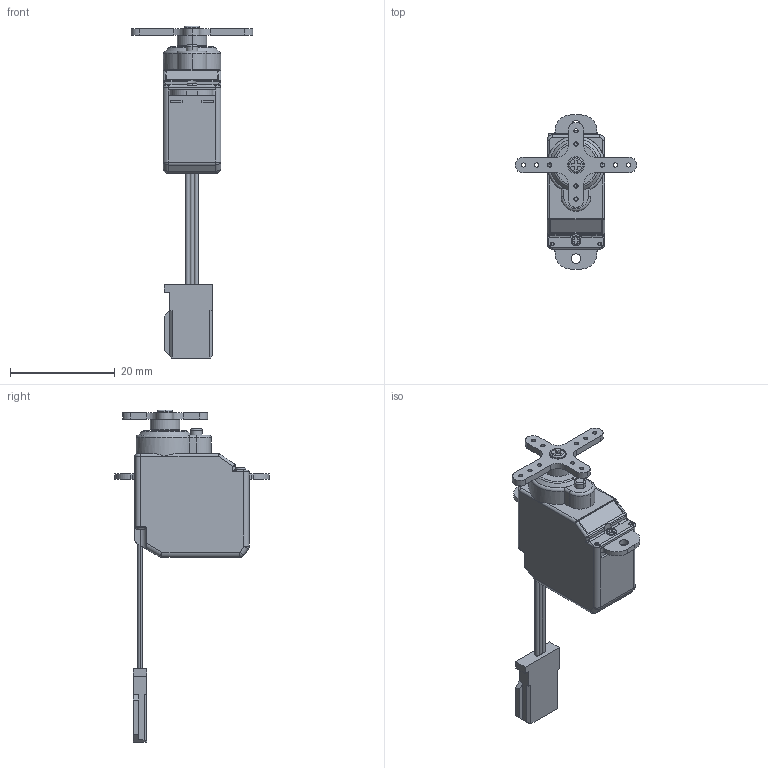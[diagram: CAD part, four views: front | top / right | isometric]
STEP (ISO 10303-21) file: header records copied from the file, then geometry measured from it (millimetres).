
FILE_DESCRIPTION (( 'STEP AP203' ), '1' );
FILE_NAME ('S3154.STEP', '2026-08-28T01:21:21', ( '' ), ( '' ), 'SwSTEP 2.0', 'SolidWorks 2025', '' );
FILE_SCHEMA (( 'CONFIG_CONTROL_DESIGN' ));
Length unit declared in the file: metre
Products named in the file (4): S3154.step; screw 1.7x4; INV HORN FAI4 .step; S3154
Assembly tree (3 placements, depth 2):
  S3154
    S3154.step
    INV HORN FAI4 .step
    screw 1.7x4
Bounding box: 23.2 x 29.4 x 63.3 mm (x, y, z)
Volume: 5466.2 mm3; surface area: 3115.1 mm2
Topology: 4 solids, 6 shells, 384 faces, 967 edges, 611 vertices
Faces by surface type: plane 207, cylinder 121, torus 22, bspline 18, cone 10, sphere 6
Entity records: 13163 total; most frequent: CARTESIAN_POINT 3559, ORIENTED_EDGE 1918, DIRECTION 1884, EDGE_CURVE 959, AXIS2_PLACEMENT_3D 633, LINE 618, VECTOR 618, VERTEX_POINT 611
